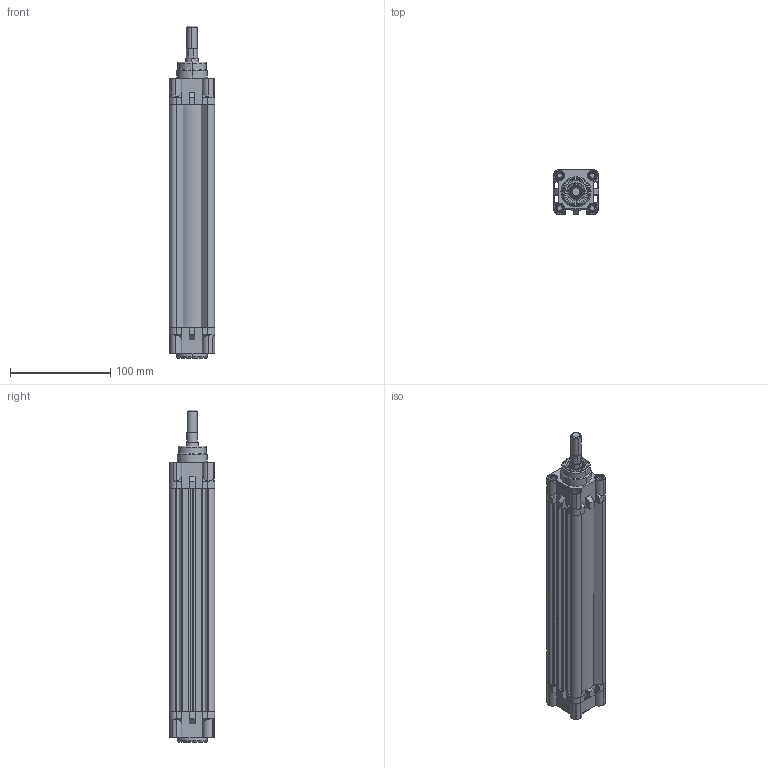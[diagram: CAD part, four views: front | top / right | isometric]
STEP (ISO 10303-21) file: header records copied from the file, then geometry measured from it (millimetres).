
FILE_DESCRIPTION (( 'STEP AP214' ), '1' );
FILE_NAME ('RIC_32_200_MY_WEB.STEP', '2020-07-18T17:18:28', ( '' ), ( '' ), 'SwSTEP 2.0', 'SolidWorks 2018', '' );
FILE_SCHEMA (( 'AUTOMOTIVE_DESIGN' ));
Length unit declared in the file: millimetre
Products named in the file (8): m6kapakcivatasi; ric32bogazkecesi; RIC_32_200_MY_WEB; 12_K_MIL_WEB_RIC32-25; 32arkakapak; ric32kecemil; 32önkapak; 32_BORU_WEB
Assembly tree (14 placements, depth 3):
  RIC_32_200_MY_WEB
    32_BORU_WEB
    32arkakapak
    32önkapak
    m6kapakcivatasi  x8
    ric32kecemil
      12_K_MIL_WEB_RIC32-25
    ric32bogazkecesi
Bounding box: 45 x 45.2 x 330.4 mm (x, y, z)
Volume: 271712.6 mm3; surface area: 145992 mm2
Topology: 13 solids, 13 shells, 783 faces, 1897 edges, 1206 vertices
Faces by surface type: plane 429, cylinder 194, cone 98, bspline 56, torus 6
Entity records: 22770 total; most frequent: CARTESIAN_POINT 6503, ORIENTED_EDGE 3010, DIRECTION 2881, EDGE_CURVE 1505, VERTEX_POINT 968, VECTOR 965, LINE 965, AXIS2_PLACEMENT_3D 958
